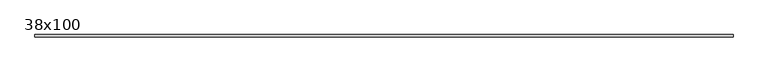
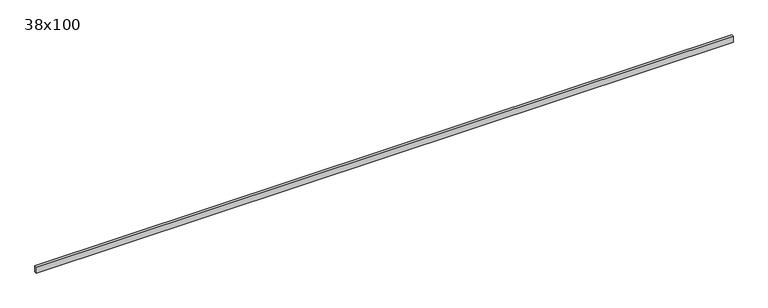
"""IFC4 building model written with IfcOpenShell, lengths in millimetres: beam geometry, Poutre - Bois de construction de dimensions courantes : 38x100."""

from ifc_helpers import new_model, si_unit, frame, origin, place, context, project, spatial, polyline, outline, extrude, source, transform, mapped, element, save


def beam_38x100_9f49f215(model_context):
    return source(origin(), model_context, "Body", "SweptSolid", [
        extrude(outline(polyline([(5457.0, 19.05), (5457.0, -19.05), (-5480.0, -19.05), (-5480.0, 19.05), (5457.0, 19.05)])), frame((0.0, 0.0, -50.0), z_axis=(0.0, 0.0, 1.0), x_axis=(1.0, 0.0, 0.0)), (0.0, 0.0, 1.0), 100.0),
    ])


if __name__ == "__main__":
    model = new_model("IFC4")
    model_context = context("Model", 3, world=origin())
    ifc_project = project(units=[si_unit("LENGTHUNIT", "METRE", prefix="MILLI")], contexts=[model_context])
    site = spatial("IfcSite", under=ifc_project)
    building = spatial("IfcBuilding", under=site)
    placement = place(None, origin())
    beam_38x100_shape = beam_38x100_9f49f215(model_context)
    element("IfcBeam", 1, ObjectType="Poutre - Bois de construction de dimensions courantes : 38x100", at=placement, inside=building, context=model_context, shape_type="MappedRepresentation", body=[
        mapped(beam_38x100_shape, transform((0.0, 0.0, 0.0), x_axis=(1.0, 0.0, 0.0), y_axis=(0.0, 1.0, 0.0), z_axis=(0.0, 0.0, 1.0))),
    ])
    save(model, "model.ifc")
